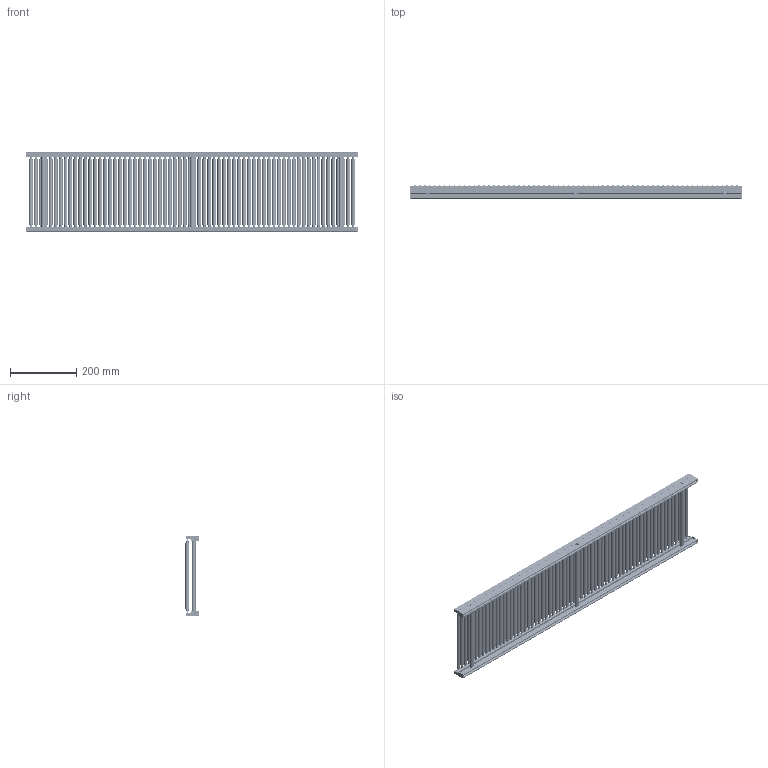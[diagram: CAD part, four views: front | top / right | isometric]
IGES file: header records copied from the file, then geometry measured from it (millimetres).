
Start section: SolidWorks IGES file using analytic representation for surfaces
Global section: file name: C:\Users\0656\Desktop\変換ツール\iges変換\JR-1230.igs; native system: SolidWorks 2023; preprocessor: SolidWorks 2023; author: 0656; date: 240226.152251; units: millimetre
Bounding box: 1004 x 40 x 239 mm (x, y, z)
Surface area: 1540603.1 mm2 (no closed solid volume)
Topology: 0 solids, 0 shells, 2512 faces, 37108 edges, 37096 vertices
Faces by surface type: bspline 1606, revolution 906
